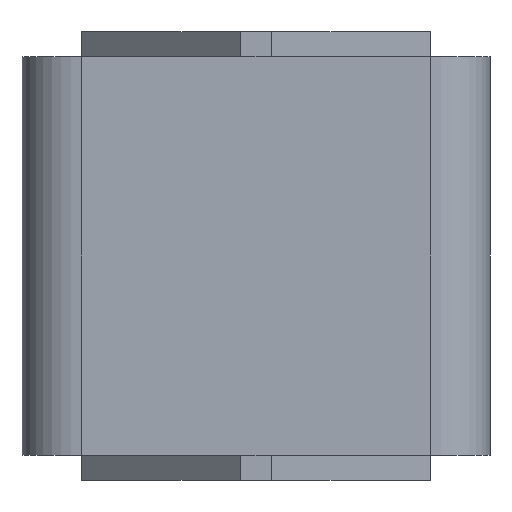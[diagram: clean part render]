
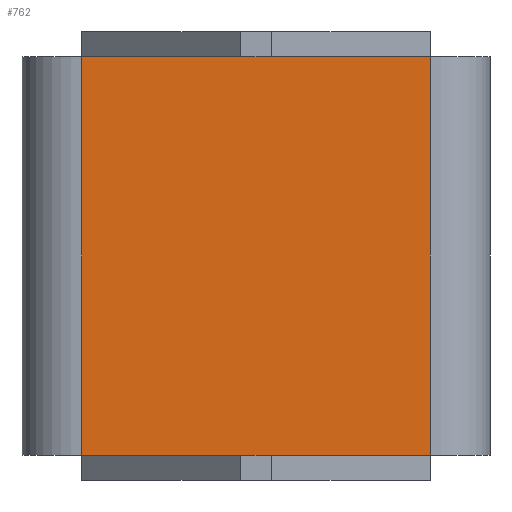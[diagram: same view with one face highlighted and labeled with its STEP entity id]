
A CAD part, left-side view. The second image highlights one B-rep face of the part: STEP entity #762.
In plain terms, the highlighted planar face has unit normal (-1, 0, 0).
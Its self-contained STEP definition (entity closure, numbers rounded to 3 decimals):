
#704=CARTESIAN_POINT('',(-45.5,-17.5,40.0));
#705=VERTEX_POINT('',#704);
#713=CARTESIAN_POINT('',(-45.5,-17.5,0.0));
#714=VERTEX_POINT('',#713);
#715=CARTESIAN_POINT('',(-45.5,-17.5,0.0));
#716=DIRECTION('',(0.0,0.0,1.0));
#717=VECTOR('',#716,40.0);
#718=LINE('',#715,#717);
#719=EDGE_CURVE('',#714,#705,#718,.T.);
#732=CARTESIAN_POINT('',(-45.5,-17.5,0.0));
#733=DIRECTION('',(-1.0,0.0,0.0));
#734=DIRECTION('',(0.0,0.0,1.0));
#735=AXIS2_PLACEMENT_3D('',#732,#733,#734);
#736=PLANE('',#735);
#737=CARTESIAN_POINT('',(-45.5,17.5,40.0));
#738=VERTEX_POINT('',#737);
#739=CARTESIAN_POINT('',(-45.5,-17.5,40.0));
#740=DIRECTION('',(0.0,1.0,0.0));
#741=VECTOR('',#740,35.);
#742=LINE('',#739,#741);
#743=EDGE_CURVE('',#705,#738,#742,.T.);
#744=ORIENTED_EDGE('',*,*,#743,.T.);
#745=CARTESIAN_POINT('',(-45.5,17.5,0.0));
#746=VERTEX_POINT('',#745);
#747=CARTESIAN_POINT('',(-45.5,17.5,0.0));
#748=DIRECTION('',(0.0,0.0,1.0));
#749=VECTOR('',#748,40.0);
#750=LINE('',#747,#749);
#751=EDGE_CURVE('',#746,#738,#750,.T.);
#752=ORIENTED_EDGE('',*,*,#751,.F.);
#753=CARTESIAN_POINT('',(-45.5,17.5,0.0));
#754=DIRECTION('',(0.0,-1.0,0.0));
#755=VECTOR('',#754,35.);
#756=LINE('',#753,#755);
#757=EDGE_CURVE('',#746,#714,#756,.T.);
#758=ORIENTED_EDGE('',*,*,#757,.T.);
#759=ORIENTED_EDGE('',*,*,#719,.T.);
#760=EDGE_LOOP('',(#744,#752,#758,#759));
#761=FACE_OUTER_BOUND('',#760,.T.);
#762=ADVANCED_FACE('',(#761),#736,.T.);
